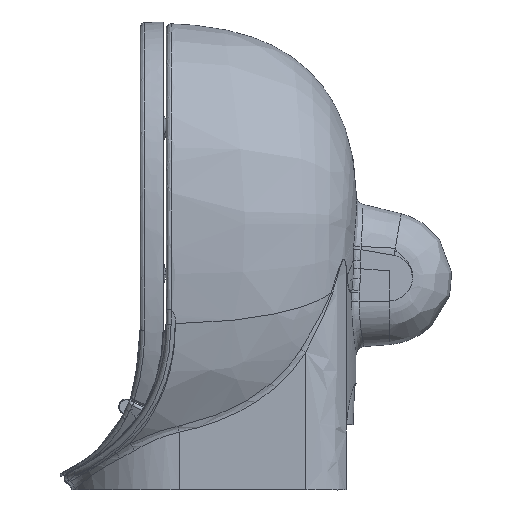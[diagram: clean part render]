
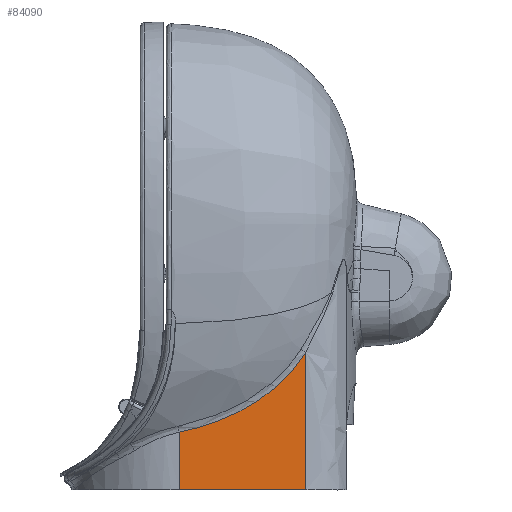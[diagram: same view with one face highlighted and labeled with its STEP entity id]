
A CAD part, left-side view. The second image highlights one B-rep face of the part: STEP entity #84090.
In plain terms, the highlighted planar face has unit normal (-1, 0, 0).
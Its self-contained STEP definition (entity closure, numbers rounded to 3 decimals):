
#1929 = CARTESIAN_POINT ( 'NONE',  ( -132.86, 190.417, -395.967 ) ) ;
#4638 = EDGE_CURVE ( 'NONE', #39546, #57958, #151820, .T. ) ;
#4901 = CARTESIAN_POINT ( 'NONE',  ( -132.86, 134.111, -370.482 ) ) ;
#5873 = CARTESIAN_POINT ( 'NONE',  ( -132.86, 172.885, -389.409 ) ) ;
#6061 = DIRECTION ( 'NONE',  ( 0., 1., 0. ) ) ;
#11456 = LINE ( 'NONE', #162883, #175954 ) ;
#16615 = EDGE_CURVE ( 'NONE', #153135, #57958, #188366, .T. ) ;
#16873 = CARTESIAN_POINT ( 'NONE',  ( -132.86, 175.323, -390.337 ) ) ;
#23202 = CARTESIAN_POINT ( 'NONE',  ( -132.86, 221.109, -473.274 ) ) ;
#24198 = VECTOR ( 'NONE', #50950, 1000. ) ;
#28904 = EDGE_CURVE ( 'NONE', #153135, #73397, #121896, .T. ) ;
#31817 = CARTESIAN_POINT ( 'NONE',  ( -132.86, 140.777, -374.492 ) ) ;
#32822 = CARTESIAN_POINT ( 'NONE',  ( -132.86, 122.568, -363.118 ) ) ;
#35778 = CARTESIAN_POINT ( 'NONE',  ( -132.86, 163.285, -385.525 ) ) ;
#39546 = VERTEX_POINT ( 'NONE', #23202 ) ;
#43856 = CARTESIAN_POINT ( 'NONE',  ( -132.86, 97.273, -342.548 ) ) ;
#47773 = CARTESIAN_POINT ( 'NONE',  ( -132.86, 169.658, -388.145 ) ) ;
#48666 = ORIENTED_EDGE ( 'NONE', *, *, #132454, .T. ) ;
#48767 = CARTESIAN_POINT ( 'NONE',  ( -132.86, 176.022, -390.599 ) ) ;
#50178 = DIRECTION ( 'NONE',  ( 0., -1., 0. ) ) ;
#50950 = DIRECTION ( 'NONE',  ( 0., 0., -1. ) ) ;
#57958 = VERTEX_POINT ( 'NONE', #184716 ) ;
#60718 = ORIENTED_EDGE ( 'NONE', *, *, #4638, .T. ) ;
#62723 = CARTESIAN_POINT ( 'NONE',  ( -132.86, 205.407, -400.202 ) ) ;
#64887 = PLANE ( 'NONE',  #89364 ) ;
#65697 = CARTESIAN_POINT ( 'NONE',  ( -132.86, 175.935, -390.566 ) ) ;
#65907 = CARTESIAN_POINT ( 'NONE',  ( -132.86, 68.288, -466.182 ) ) ;
#66850 = FACE_OUTER_BOUND ( 'NONE', #163765, .T. ) ;
#73397 = VERTEX_POINT ( 'NONE', #93720 ) ;
#73757 = CARTESIAN_POINT ( 'NONE',  ( -132.86, 68.288, -306.714 ) ) ;
#77687 = CARTESIAN_POINT ( 'NONE',  ( -132.86, 176.08, -390.621 ) ) ;
#84090 = ADVANCED_FACE ( 'NONE', ( #66850 ), #64887, .F. ) ;
#88718 = CARTESIAN_POINT ( 'NONE',  ( -132.86, 97.006, -342.292 ) ) ;
#89364 = AXIS2_PLACEMENT_3D ( 'NONE', #170449, #93812, #6061 ) ;
#90963 = VECTOR ( 'NONE', #50178, 1000. ) ;
#92637 = CARTESIAN_POINT ( 'NONE',  ( -132.86, 134.245, -370.563 ) ) ;
#93720 = CARTESIAN_POINT ( 'NONE',  ( -132.86, 221.109, -403.348 ) ) ;
#93812 = DIRECTION ( 'NONE',  ( 1., 0., 0. ) ) ;
#105610 = CARTESIAN_POINT ( 'NONE',  ( -132.86, 102.761, -347.784 ) ) ;
#108555 = CARTESIAN_POINT ( 'NONE',  ( -132.86, 133.548, -370.141 ) ) ;
#111514 = CARTESIAN_POINT ( 'NONE',  ( -132.86, 133.923, -370.369 ) ) ;
#118060 = DIRECTION ( 'NONE',  ( 0., 0., -1. ) ) ;
#121896 = B_SPLINE_CURVE_WITH_KNOTS ( 'NONE', 3,
 ( #73757, #134477, #151392, #133498, #194240, #136435, #180278, #164373, #88718, #197176, #149429, #43856, #165357, #105610, #183215, #32822, #123459, #172232, #141362, #108555, #111514, #4901, #156335, #92637, #142341, #31817, #153360, #35778, #47773, #5873, #187168, #16873, #122483, #65697, #48767, #77687, #184202, #1929, #62723, #139373 ),
 .UNSPECIFIED., .F., .F.,
 ( 4, 1, 1, 1, 1, 1, 1, 1, 1, 2, 2, 1, 1, 1, 1, 1, 1, 1, 1, 2, 2, 1, 1, 1, 1, 1, 1, 1, 1, 2, 2, 4 ),
 ( 0., 0.125, 0.188, 0.219, 0.234, 0.242, 0.246, 0.248, 0.249, 0.25, 0.25, 0.375, 0.438, 0.469, 0.484, 0.492, 0.496, 0.498, 0.499, 0.5, 0.5, 0.625, 0.688, 0.719, 0.734, 0.742, 0.746, 0.748, 0.749, 0.75, 0.75, 1. ),
 .UNSPECIFIED. ) ;
#122483 = CARTESIAN_POINT ( 'NONE',  ( -132.86, 175.731, -390.49 ) ) ;
#123459 = CARTESIAN_POINT ( 'NONE',  ( -132.86, 128.355, -366.914 ) ) ;
#127833 = CARTESIAN_POINT ( 'NONE',  ( -132.86, 68.288, -473.274 ) ) ;
#132454 = EDGE_CURVE ( 'NONE', #73397, #39546, #11456, .T. ) ;
#133498 = CARTESIAN_POINT ( 'NONE',  ( -132.86, 87.714, -332.831 ) ) ;
#134477 = CARTESIAN_POINT ( 'NONE',  ( -132.86, 72.26, -313.23 ) ) ;
#136435 = CARTESIAN_POINT ( 'NONE',  ( -132.86, 94.846, -340.194 ) ) ;
#139373 = CARTESIAN_POINT ( 'NONE',  ( -132.86, 221.109, -403.348 ) ) ;
#141362 = CARTESIAN_POINT ( 'NONE',  ( -132.86, 132.798, -369.686 ) ) ;
#142341 = CARTESIAN_POINT ( 'NONE',  ( -132.86, 134.274, -370.58 ) ) ;
#149429 = CARTESIAN_POINT ( 'NONE',  ( -132.86, 97.229, -342.505 ) ) ;
#151392 = CARTESIAN_POINT ( 'NONE',  ( -132.86, 78.868, -322.602 ) ) ;
#151820 = LINE ( 'NONE', #127833, #90963 ) ;
#153135 = VERTEX_POINT ( 'NONE', #174573 ) ;
#153360 = CARTESIAN_POINT ( 'NONE',  ( -132.86, 150.865, -379.921 ) ) ;
#156335 = CARTESIAN_POINT ( 'NONE',  ( -132.86, 134.192, -370.531 ) ) ;
#162883 = CARTESIAN_POINT ( 'NONE',  ( -132.86, 221.109, -466.182 ) ) ;
#163765 = EDGE_LOOP ( 'NONE', ( #190991, #177508, #48666, #60718 ) ) ;
#164373 = CARTESIAN_POINT ( 'NONE',  ( -132.86, 96.695, -341.994 ) ) ;
#165357 = CARTESIAN_POINT ( 'NONE',  ( -132.86, 97.297, -342.57 ) ) ;
#170449 = CARTESIAN_POINT ( 'NONE',  ( -132.86, 68.288, -466.182 ) ) ;
#172232 = CARTESIAN_POINT ( 'NONE',  ( -132.86, 131.307, -368.769 ) ) ;
#174573 = CARTESIAN_POINT ( 'NONE',  ( -132.86, 68.288, -306.714 ) ) ;
#175954 = VECTOR ( 'NONE', #118060, 1000. ) ;
#177508 = ORIENTED_EDGE ( 'NONE', *, *, #28904, .T. ) ;
#180278 = CARTESIAN_POINT ( 'NONE',  ( -132.86, 96.076, -341.396 ) ) ;
#183215 = CARTESIAN_POINT ( 'NONE',  ( -132.86, 111.467, -355.18 ) ) ;
#184202 = CARTESIAN_POINT ( 'NONE',  ( -132.86, 176.111, -390.632 ) ) ;
#184716 = CARTESIAN_POINT ( 'NONE',  ( -132.86, 68.288, -473.274 ) ) ;
#187168 = CARTESIAN_POINT ( 'NONE',  ( -132.86, 174.508, -390.03 ) ) ;
#188366 = LINE ( 'NONE', #65907, #24198 ) ;
#190991 = ORIENTED_EDGE ( 'NONE', *, *, #16615, .F. ) ;
#194240 = CARTESIAN_POINT ( 'NONE',  ( -132.86, 92.421, -337.769 ) ) ;
#197176 = CARTESIAN_POINT ( 'NONE',  ( -132.86, 97.162, -342.441 ) ) ;
